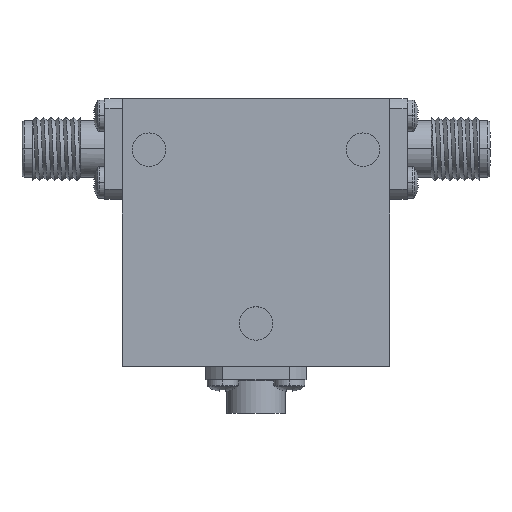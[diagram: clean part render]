
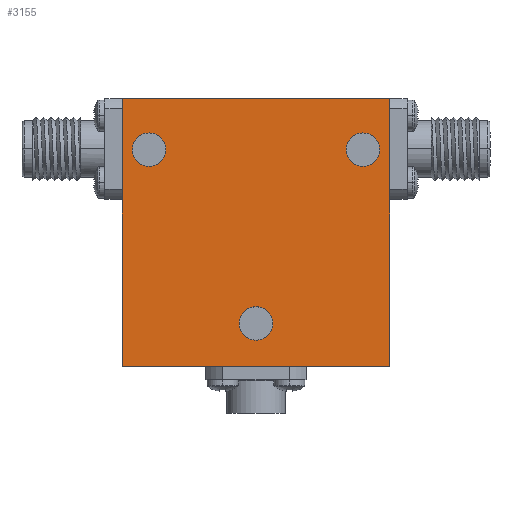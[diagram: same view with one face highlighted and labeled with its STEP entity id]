
A CAD part, top view. The second image highlights one B-rep face of the part: STEP entity #3155.
In plain terms, the highlighted planar face has unit normal (0, 0, 1) as drawn and (0, 0, -1) by its records, which use the part's own axes.
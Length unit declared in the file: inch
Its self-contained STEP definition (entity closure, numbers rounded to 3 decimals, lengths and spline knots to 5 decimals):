
#148 = CARTESIAN_POINT ( 'NONE',  ( -0.3375, 0.31, -0.19 ) ) ;
#155 = DIRECTION ( 'NONE',  ( 0., 1., 0. ) ) ;
#186 = DIRECTION ( 'NONE',  ( 1., 0., 0. ) ) ;
#202 = ORIENTED_EDGE ( 'NONE', *, *, #364, .T. ) ;
#207 = DIRECTION ( 'NONE',  ( 0., -1., 0. ) ) ;
#257 = AXIS2_PLACEMENT_3D ( 'NONE', #2766, #1653, #861 ) ;
#364 = EDGE_CURVE ( 'NONE', #4561, #1025, #2169, .T. ) ;
#388 = VERTEX_POINT ( 'NONE', #1543 ) ;
#403 = LINE ( 'NONE', #3577, #4082 ) ;
#423 = CARTESIAN_POINT ( 'NONE',  ( 0.5, 0.5, -0.19 ) ) ;
#445 = CARTESIAN_POINT ( 'NONE',  ( -0.5, 0.5, -0.19 ) ) ;
#471 = AXIS2_PLACEMENT_3D ( 'NONE', #1127, #4128, #3352 ) ;
#556 = VERTEX_POINT ( 'NONE', #423 ) ;
#560 = ORIENTED_EDGE ( 'NONE', *, *, #4849, .T. ) ;
#593 = CARTESIAN_POINT ( 'NONE',  ( -0.0625, -0.34, -0.19 ) ) ;
#604 = DIRECTION ( 'NONE',  ( 0., 0., 1. ) ) ;
#650 = EDGE_CURVE ( 'NONE', #3599, #556, #1656, .T. ) ;
#679 = EDGE_CURVE ( 'NONE', #3509, #2115, #3282, .T. ) ;
#704 = DIRECTION ( 'NONE',  ( 1., 0., 0. ) ) ;
#722 = EDGE_LOOP ( 'NONE', ( #1976, #560 ) ) ;
#748 = ORIENTED_EDGE ( 'NONE', *, *, #3450, .F. ) ;
#818 = ORIENTED_EDGE ( 'NONE', *, *, #679, .T. ) ;
#861 = DIRECTION ( 'NONE',  ( 1., 0., 0. ) ) ;
#885 = AXIS2_PLACEMENT_3D ( 'NONE', #1097, #1443, #704 ) ;
#937 = AXIS2_PLACEMENT_3D ( 'NONE', #3533, #1622, #1312 ) ;
#939 = FACE_BOUND ( 'NONE', #2162, .T. ) ;
#1025 = VERTEX_POINT ( 'NONE', #148 ) ;
#1030 = CARTESIAN_POINT ( 'NONE',  ( 0.4625, 0.31, -0.19 ) ) ;
#1097 = CARTESIAN_POINT ( 'NONE',  ( -0.4, 0.31, -0.19 ) ) ;
#1118 = ORIENTED_EDGE ( 'NONE', *, *, #2355, .F. ) ;
#1121 = FACE_BOUND ( 'NONE', #722, .T. ) ;
#1127 = CARTESIAN_POINT ( 'NONE',  ( 0., -0.34, -0.19 ) ) ;
#1271 = CARTESIAN_POINT ( 'NONE',  ( 0.5, 0.5, -0.19 ) ) ;
#1312 = DIRECTION ( 'NONE',  ( 1., 0., 0. ) ) ;
#1434 = EDGE_CURVE ( 'NONE', #4157, #4026, #1860, .T. ) ;
#1443 = DIRECTION ( 'NONE',  ( 0., 0., 1. ) ) ;
#1543 = CARTESIAN_POINT ( 'NONE',  ( -0.5, 0.5, -0.19 ) ) ;
#1567 = EDGE_LOOP ( 'NONE', ( #818, #4182 ) ) ;
#1622 = DIRECTION ( 'NONE',  ( 0., 0., 1. ) ) ;
#1639 = LINE ( 'NONE', #445, #2382 ) ;
#1653 = DIRECTION ( 'NONE',  ( 0., 0., 1. ) ) ;
#1656 = LINE ( 'NONE', #1271, #2623 ) ;
#1681 = DIRECTION ( 'NONE',  ( 0., 0., 1. ) ) ;
#1841 = CARTESIAN_POINT ( 'NONE',  ( 0.5, -0.5, -0.19 ) ) ;
#1860 = CIRCLE ( 'NONE', #471, 0.0625 ) ;
#1976 = ORIENTED_EDGE ( 'NONE', *, *, #1434, .T. ) ;
#2044 = DIRECTION ( 'NONE',  ( 1., 0., 0. ) ) ;
#2115 = VERTEX_POINT ( 'NONE', #3209 ) ;
#2162 = EDGE_LOOP ( 'NONE', ( #2904, #202 ) ) ;
#2169 = CIRCLE ( 'NONE', #3345, 0.0625 ) ;
#2355 = EDGE_CURVE ( 'NONE', #3193, #3599, #3960, .T. ) ;
#2366 = CARTESIAN_POINT ( 'NONE',  ( 0.0625, -0.34, -0.19 ) ) ;
#2382 = VECTOR ( 'NONE', #3716, 39.37008 ) ;
#2420 = CARTESIAN_POINT ( 'NONE',  ( 0., -0.34, -0.19 ) ) ;
#2623 = VECTOR ( 'NONE', #155, 39.37008 ) ;
#2726 = FACE_OUTER_BOUND ( 'NONE', #4654, .T. ) ;
#2766 = CARTESIAN_POINT ( 'NONE',  ( 0., 0., -0.19 ) ) ;
#2788 = CARTESIAN_POINT ( 'NONE',  ( 0.4, 0.31, -0.19 ) ) ;
#2904 = ORIENTED_EDGE ( 'NONE', *, *, #4363, .T. ) ;
#2905 = DIRECTION ( 'NONE',  ( 1., 0., 0. ) ) ;
#2953 = CIRCLE ( 'NONE', #3780, 0.0625 ) ;
#2954 = VECTOR ( 'NONE', #4406, 39.37008 ) ;
#3106 = CARTESIAN_POINT ( 'NONE',  ( -0.5, -0.5, -0.19 ) ) ;
#3155 = ADVANCED_FACE ( 'NONE', ( #4748, #1121, #939, #2726 ), #3459, .F. ) ;
#3193 = VERTEX_POINT ( 'NONE', #3106 ) ;
#3209 = CARTESIAN_POINT ( 'NONE',  ( 0.3375, 0.31, -0.19 ) ) ;
#3282 = CIRCLE ( 'NONE', #937, 0.0625 ) ;
#3345 = AXIS2_PLACEMENT_3D ( 'NONE', #4032, #4010, #2905 ) ;
#3352 = DIRECTION ( 'NONE',  ( 1., 0., 0. ) ) ;
#3398 = CARTESIAN_POINT ( 'NONE',  ( -0.4625, 0.31, -0.19 ) ) ;
#3400 = CIRCLE ( 'NONE', #885, 0.0625 ) ;
#3441 = ORIENTED_EDGE ( 'NONE', *, *, #4534, .F. ) ;
#3450 = EDGE_CURVE ( 'NONE', #388, #3193, #403, .T. ) ;
#3459 = PLANE ( 'NONE',  #257 ) ;
#3509 = VERTEX_POINT ( 'NONE', #1030 ) ;
#3533 = CARTESIAN_POINT ( 'NONE',  ( 0.4, 0.31, -0.19 ) ) ;
#3577 = CARTESIAN_POINT ( 'NONE',  ( -0.5, 0.5, -0.19 ) ) ;
#3599 = VERTEX_POINT ( 'NONE', #1841 ) ;
#3716 = DIRECTION ( 'NONE',  ( -1., 0., 0. ) ) ;
#3780 = AXIS2_PLACEMENT_3D ( 'NONE', #2420, #604, #186 ) ;
#3808 = AXIS2_PLACEMENT_3D ( 'NONE', #2788, #1681, #2044 ) ;
#3960 = LINE ( 'NONE', #4382, #2954 ) ;
#4010 = DIRECTION ( 'NONE',  ( 0., 0., 1. ) ) ;
#4026 = VERTEX_POINT ( 'NONE', #593 ) ;
#4032 = CARTESIAN_POINT ( 'NONE',  ( -0.4, 0.31, -0.19 ) ) ;
#4074 = CIRCLE ( 'NONE', #3808, 0.0625 ) ;
#4082 = VECTOR ( 'NONE', #207, 39.37008 ) ;
#4113 = EDGE_CURVE ( 'NONE', #2115, #3509, #4074, .T. ) ;
#4128 = DIRECTION ( 'NONE',  ( 0., 0., 1. ) ) ;
#4157 = VERTEX_POINT ( 'NONE', #2366 ) ;
#4182 = ORIENTED_EDGE ( 'NONE', *, *, #4113, .T. ) ;
#4363 = EDGE_CURVE ( 'NONE', #1025, #4561, #3400, .T. ) ;
#4382 = CARTESIAN_POINT ( 'NONE',  ( -0.5, -0.5, -0.19 ) ) ;
#4406 = DIRECTION ( 'NONE',  ( 1., 0., 0. ) ) ;
#4534 = EDGE_CURVE ( 'NONE', #556, #388, #1639, .T. ) ;
#4561 = VERTEX_POINT ( 'NONE', #3398 ) ;
#4654 = EDGE_LOOP ( 'NONE', ( #4801, #1118, #748, #3441 ) ) ;
#4748 = FACE_BOUND ( 'NONE', #1567, .T. ) ;
#4801 = ORIENTED_EDGE ( 'NONE', *, *, #650, .F. ) ;
#4849 = EDGE_CURVE ( 'NONE', #4026, #4157, #2953, .T. ) ;
